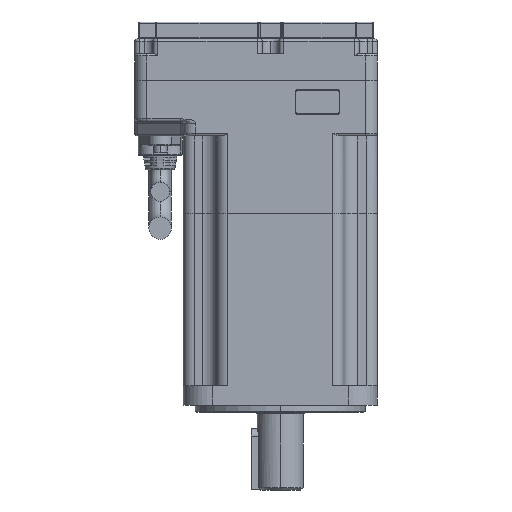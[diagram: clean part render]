
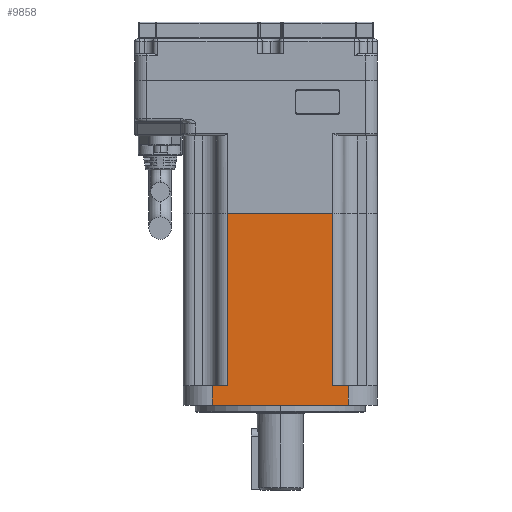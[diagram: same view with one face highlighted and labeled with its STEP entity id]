
A CAD part, left-side view. The second image highlights one B-rep face of the part: STEP entity #9858.
In plain terms, the highlighted planar face has unit normal (-1, 0, 0).
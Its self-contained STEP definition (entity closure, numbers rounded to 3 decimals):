
#5464=DIRECTION('',(0.,0.,-1.));
#5465=VECTOR('',#5464,8.);
#5466=CARTESIAN_POINT('',(-40.,-28.,13.));
#5467=LINE('',#5466,#5465);
#5472=DIRECTION('',(0.,-1.,0.));
#5473=VECTOR('',#5472,56.);
#5474=CARTESIAN_POINT('',(-40.,28.,5.));
#5475=LINE('',#5474,#5473);
#5476=DIRECTION('',(0.,1.,0.));
#5477=VECTOR('',#5476,6.25);
#5478=CARTESIAN_POINT('',(-40.,21.75,13.));
#5479=LINE('',#5478,#5477);
#5480=DIRECTION('',(0.,1.,0.));
#5481=VECTOR('',#5480,43.5);
#5482=CARTESIAN_POINT('',(-40.,-21.75,84.));
#5483=LINE('',#5482,#5481);
#5484=DIRECTION('',(0.,1.,0.));
#5485=VECTOR('',#5484,6.25);
#5486=CARTESIAN_POINT('',(-40.,-28.,13.));
#5487=LINE('',#5486,#5485);
#5492=DIRECTION('',(0.,0.,1.));
#5493=VECTOR('',#5492,8.);
#5494=CARTESIAN_POINT('',(-40.,28.,5.));
#5495=LINE('',#5494,#5493);
#5648=DIRECTION('',(0.,0.,1.));
#5649=VECTOR('',#5648,71.);
#5650=CARTESIAN_POINT('',(-40.,21.75,13.));
#5651=LINE('',#5650,#5649);
#5676=DIRECTION('',(0.,0.,-1.));
#5677=VECTOR('',#5676,71.);
#5678=CARTESIAN_POINT('',(-40.,-21.75,84.));
#5679=LINE('',#5678,#5677);
#8836=CARTESIAN_POINT('',(-40.,21.75,13.));
#8837=CARTESIAN_POINT('',(-40.,28.,13.));
#8838=VERTEX_POINT('',#8836);
#8839=VERTEX_POINT('',#8837);
#8946=CARTESIAN_POINT('',(-40.,-28.,13.));
#8948=VERTEX_POINT('',#8946);
#9067=CARTESIAN_POINT('',(-40.,-28.,5.));
#9069=VERTEX_POINT('',#9067);
#9114=CARTESIAN_POINT('',(-40.,28.,5.));
#9115=VERTEX_POINT('',#9114);
#9260=CARTESIAN_POINT('',(-40.,-21.75,13.));
#9261=VERTEX_POINT('',#9260);
#9298=CARTESIAN_POINT('',(-40.,-21.75,84.));
#9299=VERTEX_POINT('',#9298);
#9364=CARTESIAN_POINT('',(-40.,21.75,84.));
#9365=VERTEX_POINT('',#9364);
#9839=CARTESIAN_POINT('',(-40.,-40.,13.));
#9840=DIRECTION('',(1.,0.,0.));
#9841=DIRECTION('',(0.,1.,0.));
#9842=AXIS2_PLACEMENT_3D('',#9839,#9840,#9841);
#9843=PLANE('',#9842);
#9844=ORIENTED_EDGE('',*,*,#9573,.F.);
#9846=ORIENTED_EDGE('',*,*,#9845,.T.);
#9848=ORIENTED_EDGE('',*,*,#9847,.F.);
#9850=ORIENTED_EDGE('',*,*,#9849,.T.);
#9851=ORIENTED_EDGE('',*,*,#9694,.F.);
#9853=ORIENTED_EDGE('',*,*,#9852,.T.);
#9854=ORIENTED_EDGE('',*,*,#9807,.F.);
#9855=ORIENTED_EDGE('',*,*,#9831,.T.);
#9856=EDGE_LOOP('',(#9844,#9846,#9848,#9850,#9851,#9853,#9854,#9855));
#9857=FACE_OUTER_BOUND('',#9856,.F.);
#9858=ADVANCED_FACE('',(#9857),#9843,.F.);
#9573=EDGE_CURVE('',#9115,#9069,#5475,.T.);
#9694=EDGE_CURVE('',#9299,#9365,#5483,.T.);
#9807=EDGE_CURVE('',#8948,#9261,#5487,.T.);
#9831=EDGE_CURVE('',#8948,#9069,#5467,.T.);
#9845=EDGE_CURVE('',#9115,#8839,#5495,.T.);
#9847=EDGE_CURVE('',#8838,#8839,#5479,.T.);
#9849=EDGE_CURVE('',#8838,#9365,#5651,.T.);
#9852=EDGE_CURVE('',#9299,#9261,#5679,.T.);
